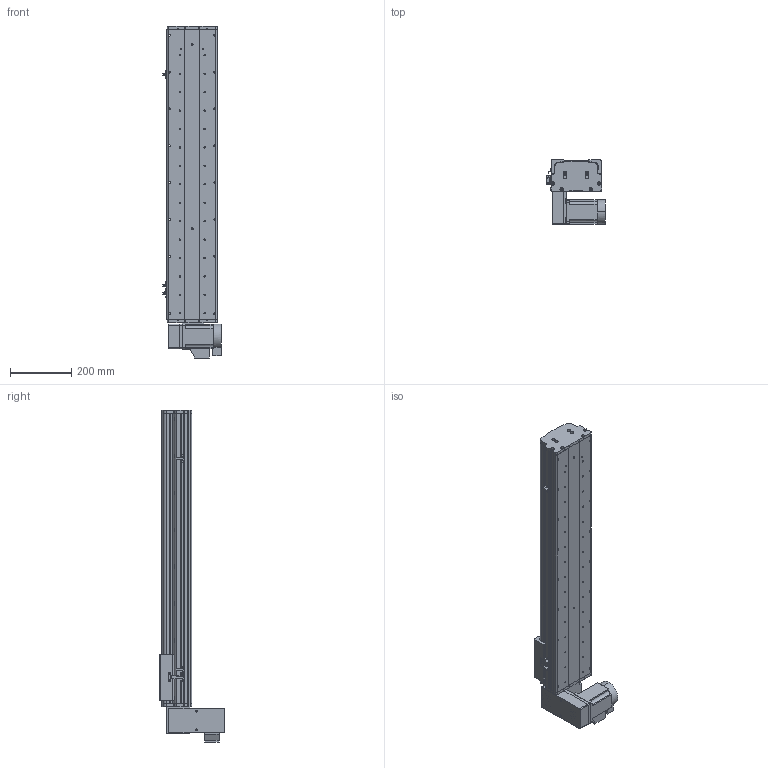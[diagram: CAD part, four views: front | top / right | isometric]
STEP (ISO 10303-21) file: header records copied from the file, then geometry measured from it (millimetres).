
FILE_DESCRIPTION (( 'STEP AP214' ), '1' );
FILE_NAME ('KSD165B-S700-MLD-CM.STEP', '2017-10-16T07:02:36', ( '微软用户' ), ( '微软中国' ), 'SwSTEP 2.0', 'SolidWorks 2014', '' );
FILE_SCHEMA (( 'AUTOMOTIVE_DESIGN' ));
Length unit declared in the file: millimetre
Products named in the file (17): KSD165模组-后端板1-同步带; KSD165模组-同步带滑动座-最新版; KSD165B-S700-MLD-CM; 130宽模组马达安装板连板上下折丝杆同步带; 130宽模组保护罩上下左右折-同步带; HTPA26S5M250-A-H8 750W萇儂蚚; HTPA26S5M250-A-H8 400W萇儂蚚 ; 165宽马达安装板同步带左-改; KSD165模组-同步带防尘盖1-700行程-最新版; KSD165模组同步带底板-700行程-最新; 拸秶雄ん750W侜督萇儂; U倰嫖萇假蚾璃; U倰嫖萇EEㄜSX672; 覜茼え68遵圉猾敕; KSD165模组-同步带-防撞垫2; KSD165模组同步带-防撞垫1; KSD165耀郪-ヶ傷啣1-肮祭湍
Assembly tree (20 placements, depth 2):
  KSD165B-S700-MLD-CM
    KSD165模组-同步带滑动座-最新版
    KSD165模组-后端板1-同步带
    KSD165耀郪-ヶ傷啣1-肮祭湍
    KSD165模组同步带-防撞垫1
    KSD165模组-同步带-防撞垫2
    覜茼え68遵圉猾敕
    U倰嫖萇EEㄜSX672  x3
    U倰嫖萇假蚾璃  x3
    拸秶雄ん750W侜督萇儂
    KSD165模组同步带底板-700行程-最新
    KSD165模组-同步带防尘盖1-700行程-最新版
    165宽马达安装板同步带左-改
    HTPA26S5M250-A-H8 400W萇儂蚚 
    HTPA26S5M250-A-H8 750W萇儂蚚
    130宽模组保护罩上下左右折-同步带
    130宽模组马达安装板连板上下折丝杆同步带
Bounding box: 191.2 x 210 x 1081 mm (x, y, z)
Volume: 6564987.9 mm3; surface area: 1521959 mm2
Topology: 21 solids, 22 shells, 1929 faces, 5436 edges, 3548 vertices
Faces by surface type: cylinder 1233, plane 584, cone 112
Entity records: 62296 total; most frequent: CARTESIAN_POINT 12750, DIRECTION 10268, ORIENTED_EDGE 9532, EDGE_CURVE 4766, AXIS2_PLACEMENT_3D 4024, VERTEX_POINT 3140, CIRCLE 2292, LINE 2220
